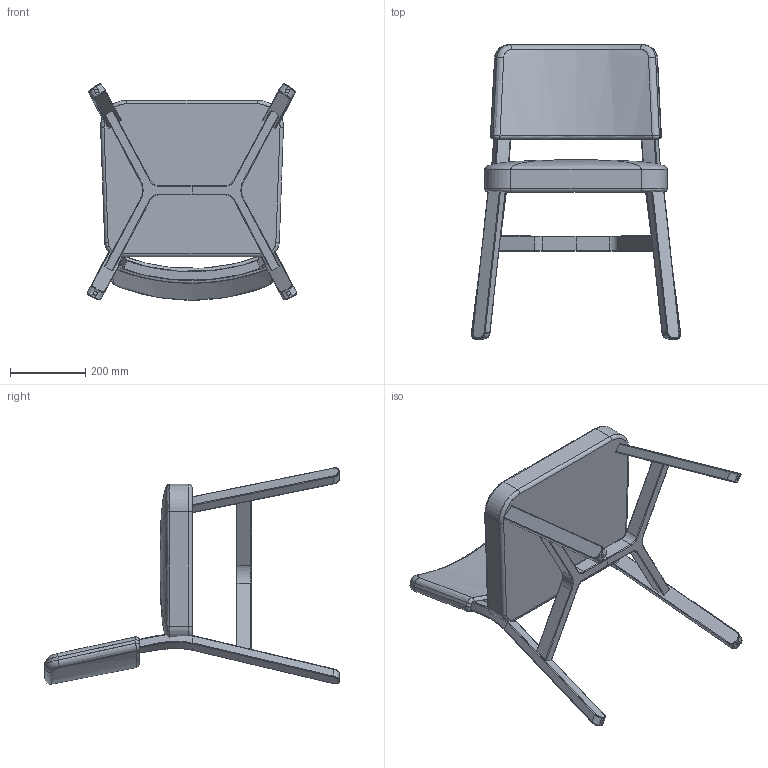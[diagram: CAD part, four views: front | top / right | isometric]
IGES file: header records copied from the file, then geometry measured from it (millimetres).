
Start section: SolidWorks IGES file using analytic representation for surfaces
Global section: file name: D:\SediaBilia\Croissant.IGS; native system: SolidWorks 2010; preprocessor: SolidWorks 2010; author: maurizio; date: 110904.182829; units: millimetre
Bounding box: 555.17 x 780 x 573.64 mm (x, y, z)
Surface area: 1149329.5 mm2 (no closed solid volume)
Topology: 0 solids, 0 shells, 235 faces, 2389 edges, 2381 vertices
Faces by surface type: bspline 149, revolution 86
